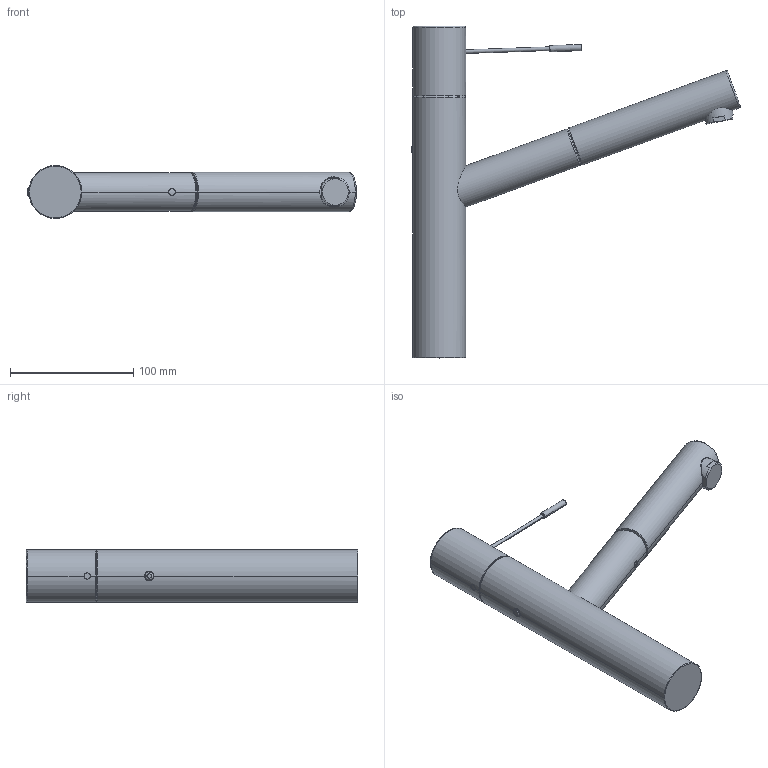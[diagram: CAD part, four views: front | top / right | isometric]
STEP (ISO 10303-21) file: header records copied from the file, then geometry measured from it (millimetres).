
FILE_DESCRIPTION((''),'2;1');
FILE_NAME('10_151_113_XXX','2012-01-04T',('hpf'),(''),'PRO/ENGINEER BY PARAMETRIC TECHNOLOGY CORPORATION, 2011080','PRO/ENGINEER BY PARAMETRIC TECHNOLOGY CORPORATION, 2011080','');
FILE_SCHEMA(('AUTOMOTIVE_DESIGN_CC2 { 1 2 10303 214 -1 1 5 2 }'));
Length unit declared in the file: millimetre
Products named in the file (1): 10_151_113_XXX
Bounding box: 266.91 x 269.45 x 43 mm (x, y, z)
Volume: 579308.6 mm3; surface area: 66413.8 mm2
Topology: 1 solids, 3 shells, 89 faces, 194 edges, 117 vertices
Faces by surface type: cylinder 39, plane 24, torus 20, cone 4, bspline 2
Entity records: 5035 total; most frequent: CARTESIAN_POINT 2185, DIRECTION 421, ORIENTED_EDGE 384, EDGE_CURVE 192, AXIS2_PLACEMENT_3D 180, FILL_AREA_STYLE_COLOUR 137, FILL_AREA_STYLE 137, SURFACE_STYLE_FILL_AREA 137
